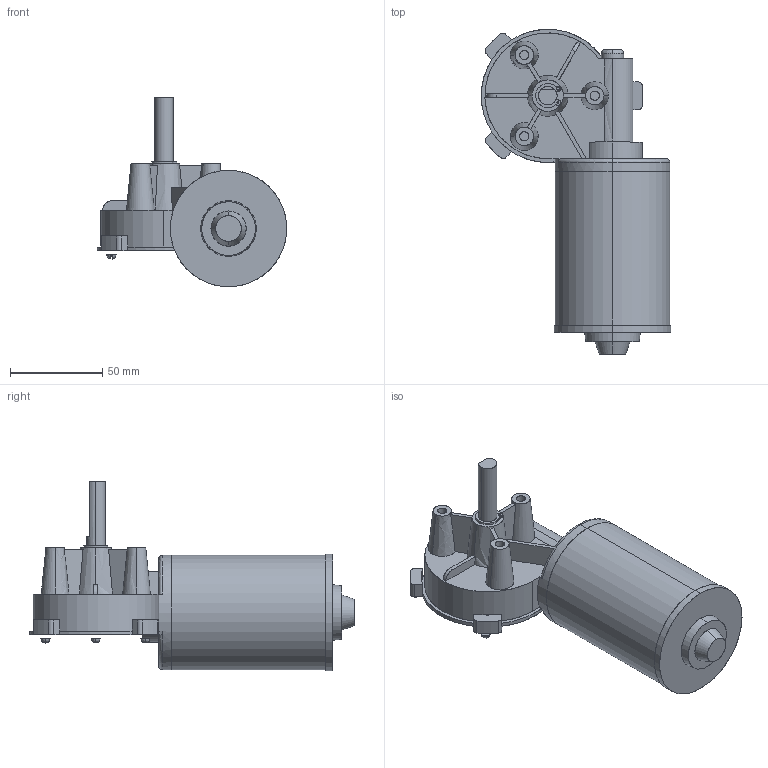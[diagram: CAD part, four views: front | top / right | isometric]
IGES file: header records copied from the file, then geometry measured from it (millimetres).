
Start section: SolidWorks IGES file using analytic representation for surfaces
Bounding box: 102.5 x 176 x 102.5 mm (x, y, z)
Surface area: 55015.4 mm2 (no closed solid volume)
Topology: 0 solids, 0 shells, 158 faces, 2760 edges, 2760 vertices
Faces by surface type: bspline 92, revolution 66
